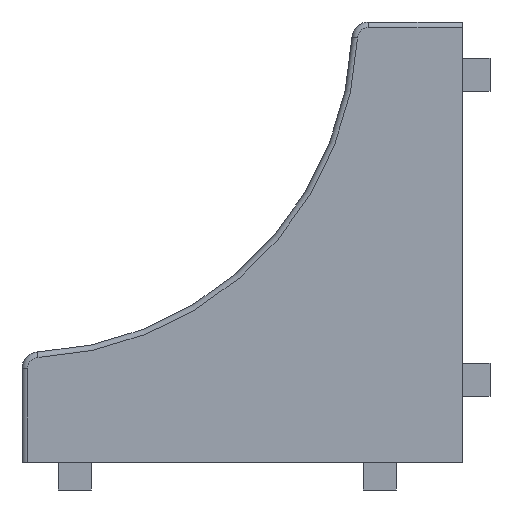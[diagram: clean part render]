
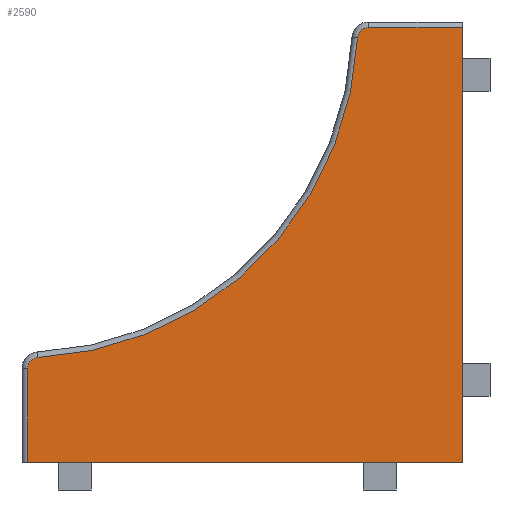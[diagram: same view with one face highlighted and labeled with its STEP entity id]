
A CAD part, left-side view. The second image highlights one B-rep face of the part: STEP entity #2590.
In plain terms, the highlighted planar face has unit normal (-1, 0, 0).
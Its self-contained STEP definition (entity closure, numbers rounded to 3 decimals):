
#64 = VECTOR ( 'NONE', #665, 1000. ) ;
#66 = LINE ( 'NONE', #660, #64 ) ;
#77 = VECTOR ( 'NONE', #728, 1000. ) ;
#79 = LINE ( 'NONE', #730, #77 ) ;
#80 = CIRCLE ( 'NONE', #2098, 1. ) ;
#81 = CIRCLE ( 'NONE', #2097, 30.5 ) ;
#82 = VECTOR ( 'NONE', #745, 1000. ) ;
#85 = LINE ( 'NONE', #746, #82 ) ;
#93 = CIRCLE ( 'NONE', #2096, 1. ) ;
#196 = FACE_OUTER_BOUND ( 'NONE', #5104, .T. ) ;
#656 = DIRECTION ( 'NONE',  ( 0., 0., 1. ) ) ;
#660 = CARTESIAN_POINT ( 'NONE',  ( -37.5, 40., 0. ) ) ;
#665 = DIRECTION ( 'NONE',  ( 0., 1., 0. ) ) ;
#671 = DIRECTION ( 'NONE',  ( 0., 0., -1. ) ) ;
#673 = CARTESIAN_POINT ( 'NONE',  ( -37.5, 0., 0. ) ) ;
#715 = DIRECTION ( 'NONE',  ( 0., 0., 1. ) ) ;
#716 = DIRECTION ( 'NONE',  ( -1., 0., 0. ) ) ;
#719 = CARTESIAN_POINT ( 'NONE',  ( -37.5, 8.536, 38.5 ) ) ;
#722 = DIRECTION ( 'NONE',  ( 0., 0., 1. ) ) ;
#724 = DIRECTION ( 'NONE',  ( 1., 0., 0. ) ) ;
#726 = CARTESIAN_POINT ( 'NONE',  ( -37.5, 40., 40. ) ) ;
#728 = DIRECTION ( 'NONE',  ( 0., 1., 0. ) ) ;
#730 = CARTESIAN_POINT ( 'NONE',  ( -37.5, 8.536, 39.5 ) ) ;
#732 = DIRECTION ( 'NONE',  ( -1., 0., 0. ) ) ;
#736 = CARTESIAN_POINT ( 'NONE',  ( -37.5, 38.5, 8.536 ) ) ;
#745 = DIRECTION ( 'NONE',  ( 0., 0., -1. ) ) ;
#746 = CARTESIAN_POINT ( 'NONE',  ( -37.5, 39.5, 0. ) ) ;
#935 = DIRECTION ( 'NONE',  ( 0., 0., 1. ) ) ;
#939 = DIRECTION ( 'NONE',  ( -1., 0., 0. ) ) ;
#949 = PLANE ( 'NONE',  #2035 ) ;
#971 = CARTESIAN_POINT ( 'NONE',  ( -37.5, 0., 0. ) ) ;
#1316 = ORIENTED_EDGE ( 'NONE', *, *, #2811, .F. ) ;
#1317 = ORIENTED_EDGE ( 'NONE', *, *, #2754, .T. ) ;
#1318 = ORIENTED_EDGE ( 'NONE', *, *, #2753, .T. ) ;
#1319 = ORIENTED_EDGE ( 'NONE', *, *, #2752, .T. ) ;
#1320 = ORIENTED_EDGE ( 'NONE', *, *, #2751, .T. ) ;
#1321 = ORIENTED_EDGE ( 'NONE', *, *, #2750, .T. ) ;
#1322 = ORIENTED_EDGE ( 'NONE', *, *, #2763, .F. ) ;
#2014 = VECTOR ( 'NONE', #671, 1000. ) ;
#2017 = LINE ( 'NONE', #673, #2014 ) ;
#2035 = AXIS2_PLACEMENT_3D ( 'NONE', #971, #939, #935 ) ;
#2096 = AXIS2_PLACEMENT_3D ( 'NONE', #736, #732, #656 ) ;
#2097 = AXIS2_PLACEMENT_3D ( 'NONE', #726, #724, #722 ) ;
#2098 = AXIS2_PLACEMENT_3D ( 'NONE', #719, #716, #715 ) ;
#2590 = ADVANCED_FACE ( 'NONE', ( #196 ), #949, .T. ) ;
#2750 = EDGE_CURVE ( 'NONE', #3906, #3961, #85, .T. ) ;
#2751 = EDGE_CURVE ( 'NONE', #5327, #3906, #93, .T. ) ;
#2752 = EDGE_CURVE ( 'NONE', #5305, #5327, #81, .T. ) ;
#2753 = EDGE_CURVE ( 'NONE', #5307, #5305, #80, .T. ) ;
#2754 = EDGE_CURVE ( 'NONE', #5303, #5307, #79, .T. ) ;
#2763 = EDGE_CURVE ( 'NONE', #5309, #3961, #66, .T. ) ;
#2811 = EDGE_CURVE ( 'NONE', #5303, #5309, #2017, .T. ) ;
#2877 = CARTESIAN_POINT ( 'NONE',  ( -37.5, 0., 0. ) ) ;
#2881 = CARTESIAN_POINT ( 'NONE',  ( -37.5, 0., 39.5 ) ) ;
#2891 = CARTESIAN_POINT ( 'NONE',  ( -37.5, 39.5, 0. ) ) ;
#2895 = CARTESIAN_POINT ( 'NONE',  ( -37.5, 8.536, 39.5 ) ) ;
#2914 = CARTESIAN_POINT ( 'NONE',  ( -37.5, 39.5, 8.536 ) ) ;
#2942 = CARTESIAN_POINT ( 'NONE',  ( -37.5, 9.535, 38.548 ) ) ;
#3109 = CARTESIAN_POINT ( 'NONE',  ( -37.5, 38.548, 9.535 ) ) ;
#3906 = VERTEX_POINT ( 'NONE', #2914 ) ;
#3961 = VERTEX_POINT ( 'NONE', #2891 ) ;
#5104 = EDGE_LOOP ( 'NONE', ( #1316, #1317, #1318, #1319, #1320, #1321, #1322 ) ) ;
#5303 = VERTEX_POINT ( 'NONE', #2881 ) ;
#5305 = VERTEX_POINT ( 'NONE', #2942 ) ;
#5307 = VERTEX_POINT ( 'NONE', #2895 ) ;
#5309 = VERTEX_POINT ( 'NONE', #2877 ) ;
#5327 = VERTEX_POINT ( 'NONE', #3109 ) ;
